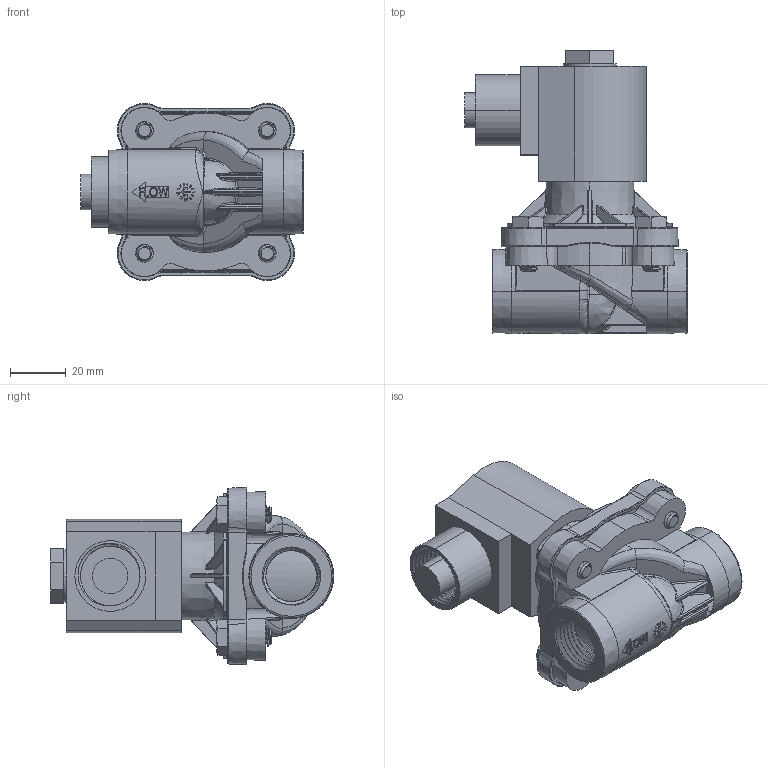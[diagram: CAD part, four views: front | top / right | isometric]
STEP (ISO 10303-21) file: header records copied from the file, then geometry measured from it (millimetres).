
FILE_DESCRIPTION (( 'STEP AP203' ), '1' );
FILE_NAME ('S201GxxxxPDG4.STEP', '2024-05-02T15:32:51', ( '' ), ( '' ), 'SwSTEP 2.0', 'SolidWorks 2023', '' );
FILE_SCHEMA (( 'CONFIG_CONTROL_DESIGN' ));
Length unit declared in the file: millimetre
Products named in the file (1): S201GxxxxPDG4
Bounding box: 79.88 x 101.56 x 63.5 mm (x, y, z)
Volume: 170256.8 mm3; surface area: 35069.3 mm2
Topology: 1 solids, 2 shells, 2077 faces, 5354 edges, 3243 vertices
Faces by surface type: bspline 897, plane 516, cylinder 258, torus 172, cone 149, sphere 85
Entity records: 105423 total; most frequent: CARTESIAN_POINT 62600, ORIENTED_EDGE 10482, DIRECTION 6604, EDGE_CURVE 5241, VERTEX_POINT 3240, AXIS2_PLACEMENT_3D 2419, EDGE_LOOP 2151, ADVANCED_FACE 2077
